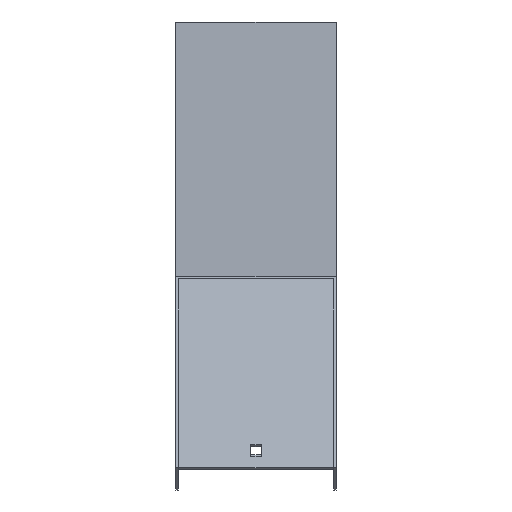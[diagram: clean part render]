
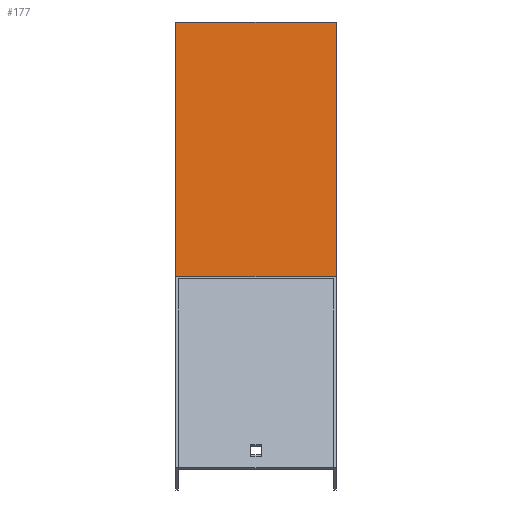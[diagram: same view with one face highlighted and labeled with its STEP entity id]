
A CAD part, top view. The second image highlights one B-rep face of the part: STEP entity #177.
In plain terms, the highlighted planar face has unit normal (0, 0.924, 0.383).
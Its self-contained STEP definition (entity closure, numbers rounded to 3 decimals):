
#7 = DIRECTION ( 'NONE',  ( -1., 0., 0. ) ) ;
#60 = DIRECTION ( 'NONE',  ( 0., -0.924, -0.383 ) ) ;
#136 = FACE_OUTER_BOUND ( 'NONE', #791, .T. ) ;
#142 = DIRECTION ( 'NONE',  ( -1., 0., 0. ) ) ;
#147 = LINE ( 'NONE', #751, #388 ) ;
#177 = ADVANCED_FACE ( 'NONE', ( #136 ), #195, .F. ) ;
#178 = VERTEX_POINT ( 'NONE', #201 ) ;
#188 = LINE ( 'NONE', #300, #308 ) ;
#195 = PLANE ( 'NONE',  #741 ) ;
#196 = VECTOR ( 'NONE', #7, 1000. ) ;
#201 = CARTESIAN_POINT ( 'NONE',  ( 51.5, -144.537, 571.206 ) ) ;
#227 = LINE ( 'NONE', #550, #760 ) ;
#230 = EDGE_CURVE ( 'NONE', #178, #843, #527, .T. ) ;
#268 = ORIENTED_EDGE ( 'NONE', *, *, #748, .F. ) ;
#281 = CARTESIAN_POINT ( 'NONE',  ( 51.5, 20., 173.978 ) ) ;
#300 = CARTESIAN_POINT ( 'NONE',  ( 51.5, 18.478, 177.654 ) ) ;
#303 = DIRECTION ( 'NONE',  ( 0., -0.383, 0.924 ) ) ;
#308 = VECTOR ( 'NONE', #303, 1000. ) ;
#366 = ORIENTED_EDGE ( 'NONE', *, *, #230, .F. ) ;
#388 = VECTOR ( 'NONE', #805, 1000. ) ;
#394 = CARTESIAN_POINT ( 'NONE',  ( 51.5, 18.478, 177.654 ) ) ;
#454 = VERTEX_POINT ( 'NONE', #821 ) ;
#517 = ORIENTED_EDGE ( 'NONE', *, *, #813, .T. ) ;
#527 = LINE ( 'NONE', #532, #196 ) ;
#532 = CARTESIAN_POINT ( 'NONE',  ( 51.5, -144.537, 571.206 ) ) ;
#550 = CARTESIAN_POINT ( 'NONE',  ( 51.5, 20., 173.978 ) ) ;
#649 = DIRECTION ( 'NONE',  ( 0., 0.383, -0.924 ) ) ;
#665 = CARTESIAN_POINT ( 'NONE',  ( -51.5, -144.537, 571.206 ) ) ;
#706 = ORIENTED_EDGE ( 'NONE', *, *, #825, .T. ) ;
#741 = AXIS2_PLACEMENT_3D ( 'NONE', #394, #60, #649 ) ;
#748 = EDGE_CURVE ( 'NONE', #802, #178, #188, .T. ) ;
#751 = CARTESIAN_POINT ( 'NONE',  ( -51.5, 18.478, 177.654 ) ) ;
#760 = VECTOR ( 'NONE', #142, 1000. ) ;
#791 = EDGE_LOOP ( 'NONE', ( #517, #366, #268, #706 ) ) ;
#802 = VERTEX_POINT ( 'NONE', #281 ) ;
#805 = DIRECTION ( 'NONE',  ( 0., -0.383, 0.924 ) ) ;
#813 = EDGE_CURVE ( 'NONE', #454, #843, #147, .T. ) ;
#821 = CARTESIAN_POINT ( 'NONE',  ( -51.5, 20., 173.978 ) ) ;
#825 = EDGE_CURVE ( 'NONE', #802, #454, #227, .T. ) ;
#843 = VERTEX_POINT ( 'NONE', #665 ) ;
